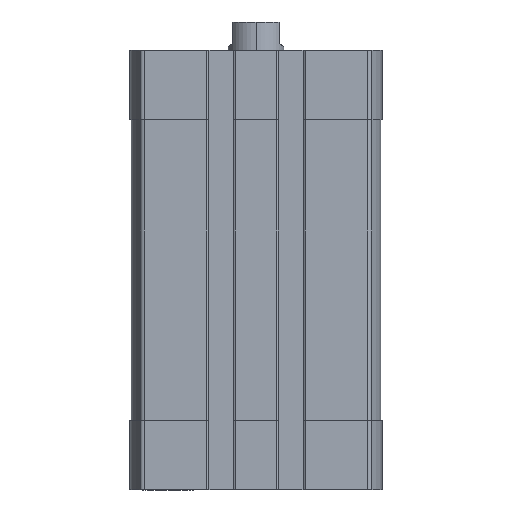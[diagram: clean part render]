
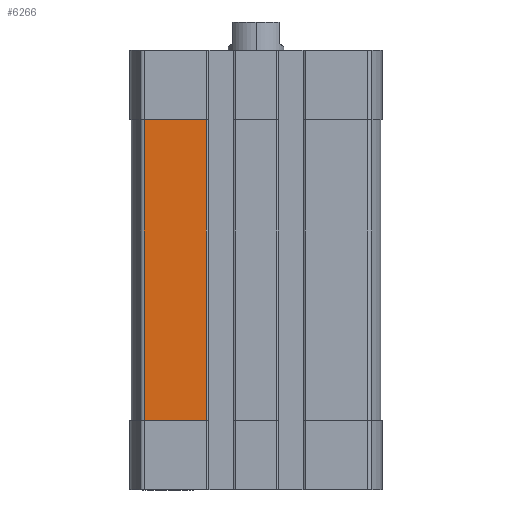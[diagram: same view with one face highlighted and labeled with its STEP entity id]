
A CAD part, left-side view. The second image highlights one B-rep face of the part: STEP entity #6266.
In plain terms, the highlighted planar face has unit normal (-1, 0, 0).
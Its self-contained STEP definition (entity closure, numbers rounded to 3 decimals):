
#775 = LINE ( 'NONE', #792, #6886 ) ;
#792 = CARTESIAN_POINT ( 'NONE',  ( -27., 24.093, -80. ) ) ;
#1733 = ORIENTED_EDGE ( 'NONE', *, *, #6833, .T. ) ;
#1783 = VECTOR ( 'NONE', #9452, 1000. ) ;
#2036 = EDGE_LOOP ( 'NONE', ( #11524, #12174, #1733, #9000 ) ) ;
#2813 = LINE ( 'NONE', #14286, #8973 ) ;
#3242 = DIRECTION ( 'NONE',  ( 0., 0., -1. ) ) ;
#3529 = CARTESIAN_POINT ( 'NONE',  ( -27., 24.093, -80. ) ) ;
#3989 = CARTESIAN_POINT ( 'NONE',  ( -27., 0., -15. ) ) ;
#4075 = VERTEX_POINT ( 'NONE', #9328 ) ;
#4296 = VERTEX_POINT ( 'NONE', #8154 ) ;
#4559 = VECTOR ( 'NONE', #8942, 1000. ) ;
#4703 = DIRECTION ( 'NONE',  ( 0., -1., 0. ) ) ;
#5446 = AXIS2_PLACEMENT_3D ( 'NONE', #11574, #14698, #7560 ) ;
#5798 = EDGE_CURVE ( 'NONE', #4075, #10116, #775, .T. ) ;
#6266 = ADVANCED_FACE ( 'NONE', ( #10618 ), #9150, .T. ) ;
#6833 = EDGE_CURVE ( 'NONE', #10067, #4075, #7827, .T. ) ;
#6886 = VECTOR ( 'NONE', #3242, 1000. ) ;
#7560 = DIRECTION ( 'NONE',  ( 0., 0., 1. ) ) ;
#7827 = LINE ( 'NONE', #3989, #4559 ) ;
#8152 = CARTESIAN_POINT ( 'NONE',  ( -27., 10.7, -80. ) ) ;
#8154 = CARTESIAN_POINT ( 'NONE',  ( -27., 10.7, -80. ) ) ;
#8942 = DIRECTION ( 'NONE',  ( 0., 1., 0. ) ) ;
#8973 = VECTOR ( 'NONE', #4703, 1000. ) ;
#9000 = ORIENTED_EDGE ( 'NONE', *, *, #5798, .T. ) ;
#9150 = PLANE ( 'NONE',  #5446 ) ;
#9199 = EDGE_CURVE ( 'NONE', #10116, #4296, #2813, .T. ) ;
#9328 = CARTESIAN_POINT ( 'NONE',  ( -27., 24.093, -15. ) ) ;
#9452 = DIRECTION ( 'NONE',  ( 0., 0., 1. ) ) ;
#10067 = VERTEX_POINT ( 'NONE', #13402 ) ;
#10116 = VERTEX_POINT ( 'NONE', #3529 ) ;
#10618 = FACE_OUTER_BOUND ( 'NONE', #2036, .T. ) ;
#11524 = ORIENTED_EDGE ( 'NONE', *, *, #9199, .T. ) ;
#11574 = CARTESIAN_POINT ( 'NONE',  ( -27., 24.093, -80. ) ) ;
#12174 = ORIENTED_EDGE ( 'NONE', *, *, #12937, .T. ) ;
#12701 = LINE ( 'NONE', #8152, #1783 ) ;
#12937 = EDGE_CURVE ( 'NONE', #4296, #10067, #12701, .T. ) ;
#13402 = CARTESIAN_POINT ( 'NONE',  ( -27., 10.7, -15. ) ) ;
#14286 = CARTESIAN_POINT ( 'NONE',  ( -27., 24.093, -80. ) ) ;
#14698 = DIRECTION ( 'NONE',  ( -1., 0., 0. ) ) ;
